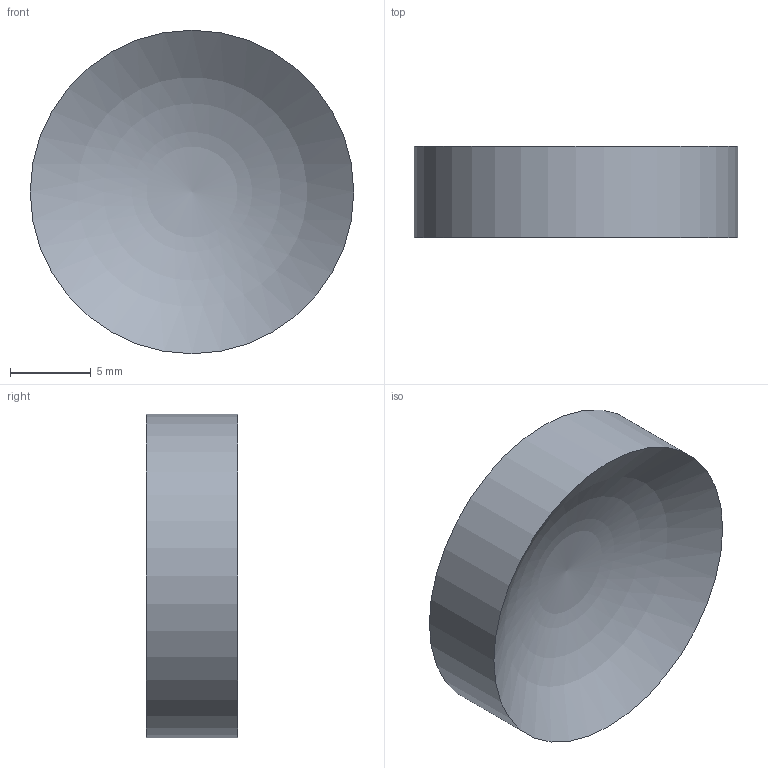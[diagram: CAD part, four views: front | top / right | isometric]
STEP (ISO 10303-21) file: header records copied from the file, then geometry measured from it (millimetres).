
FILE_DESCRIPTION((''),'2;1');
FILE_NAME('T:\Public\7_3次元データ\1図面ﾃﾞｰﾀ\7_素子\レンズ\3_球面平凹レンズ-BK7(SLB-N)\SLB-N\φ20\SLB-20-30N\SLB-20-30N.stp','2009-05-21T14:27:04',('okegawa'),(''),'Autodesk Inventor 2008','Autodesk Inventor 2008','');
FILE_SCHEMA(('AUTOMOTIVE_DESIGN { 1 0 10303 214 1 1 1 1 }'));
Length unit declared in the file: millimetre
Products named in the file (1): SLB-20-30N
Bounding box: 20 x 5.64 x 20 mm (x, y, z)
Volume: 1174.3 mm3; surface area: 1023.9 mm2
Topology: 1 solids, 1 shells, 3 faces, 3 edges, 2 vertices
Faces by surface type: bspline 1, cylinder 1, plane 1
Full cylindrical faces by diameter (mm): 20 x1
Entity records: 84 total; most frequent: CARTESIAN_POINT 16, DIRECTION 10, AXIS2_PLACEMENT_3D 5, ORIENTED_EDGE 4, EDGE_LOOP 4, FACE_OUTER_BOUND 3, ADVANCED_FACE 3, DIMENSIONAL_EXPONENTS 2
